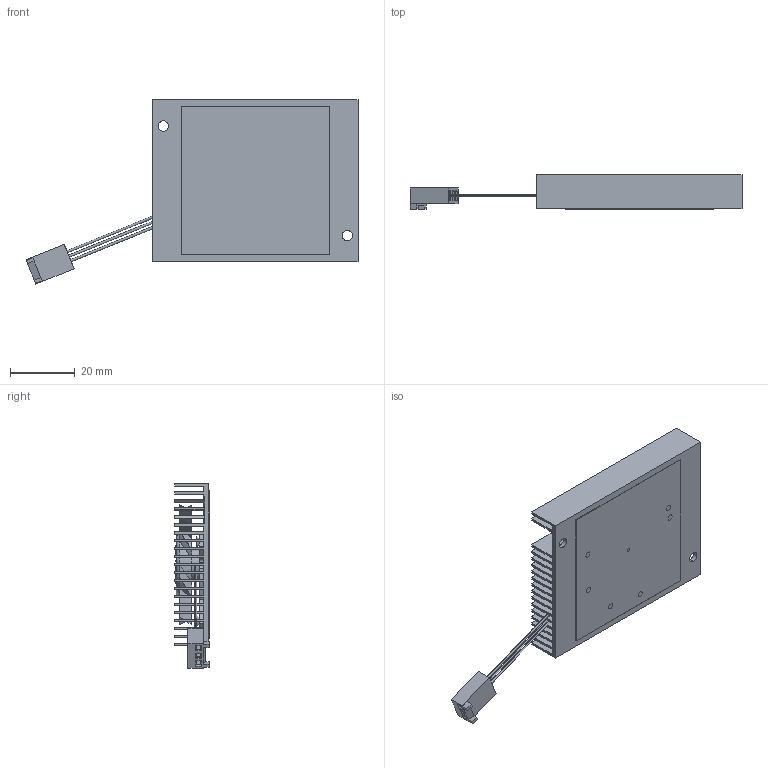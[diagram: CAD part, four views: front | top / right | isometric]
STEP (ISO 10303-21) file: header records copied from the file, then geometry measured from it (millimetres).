
FILE_DESCRIPTION (( 'STEP AP214' ), '1' );
FILE_NAME ('SZ05L (NONE).STEP', '2023-02-14T23:42:31', ( '' ), ( '' ), 'SwSTEP 2.0', 'SolidWorks 2020', '' );
FILE_SCHEMA (( 'AUTOMOTIVE_DESIGN' ));
Length unit declared in the file: inch
Products named in the file (1): SZ05L (NONE)
Bounding box: 102.52 x 10.7 x 56.92 mm (x, y, z)
Volume: 12122.8 mm3; surface area: 28798.6 mm2
Topology: 7 solids, 7 shells, 892 faces, 2440 edges, 1611 vertices
Faces by surface type: plane 528, bspline 196, cylinder 124, cone 42, torus 2
Entity records: 50783 total; most frequent: CARTESIAN_POINT 18056, ORIENTED_EDGE 4868, DIRECTION 3506, EDGE_CURVE 2434, VERTEX_POINT 1611, VECTOR 1508, LINE 1508, AXIS2_PLACEMENT_3D 999
